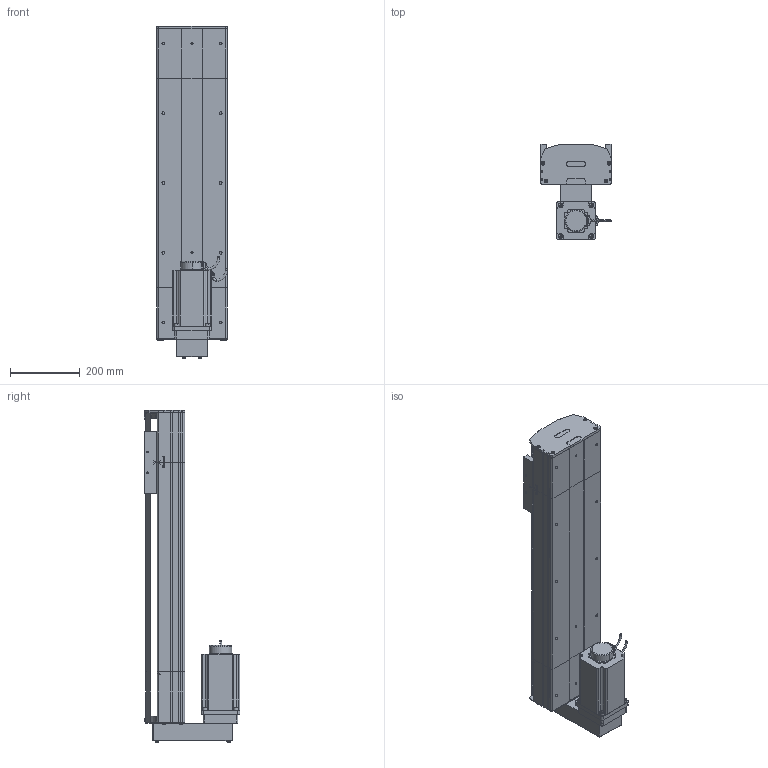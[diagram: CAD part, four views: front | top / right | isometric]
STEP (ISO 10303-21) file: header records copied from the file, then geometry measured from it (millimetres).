
FILE_DESCRIPTION (( 'STEP AP214' ), '1' );
FILE_NAME ('D20 TSH BM S600.STEP', '2010-06-30T08:33:03', ( 'Conseil Régional Haute-Normandie' ), ( 'Conseil Régional Haute-Normandie' ), 'SwSTEP 2.0', 'SolidWorks 2010', '' );
FILE_SCHEMA (( 'AUTOMOTIVE_DESIGN' ));
Length unit declared in the file: millimetre
Products named in the file (35): renvoi  BM_Default; vis M5 L70_Default; tail D20 S_Default; corpl tail D20_Default; tete d''axe haut D20; vis M5 L8 90°_Default; tete d''axe bas D20; Arbre+rail tail D20; couvercle tail D20_Default; plaque de  bout tail D20_Default; 2 vis M5 L12_Default; Chariot D20; chariot D20S_Default; guide D20; vis M5 L12_Default; vis M5 L25_Default; corpl head MD D20_Default; head BM D20_Default; couvercle D20 S600_Default; rail + arbre  D20 S600; corp D20 S600_Default; course D20 L600_Default; vis M8 L12_Default; D20 TSH BM S600; Arbre+rail head D20; clavette; Conecteur_Default; Conecteur2_Default; couvercle head l D20_Default; Plaque racord D20_Default; corps 110BLDC170A-630x; avant 110BLDC170A-630x; plaque de  bout head BR D20_Default; codeur 110BLDC170A-630x; Moteur motionking 110BLDC170A-640x
Assembly tree (59 placements, depth 4):
  D20 TSH BM S600
    head BM D20_Default
      vis M5 L12_Default  x2
      renvoi  BM_Default
      vis M8 L12_Default  x4
      Moteur motionking 110BLDC170A-640x
        clavette
        Conecteur2_Default
        codeur 110BLDC170A-630x
        Conecteur_Default
        corps 110BLDC170A-630x
        avant 110BLDC170A-630x
      vis M5 L70_Default  x4
      2 vis M5 L12_Default  x6
      Arbre+rail head D20
      corpl head MD D20_Default
      couvercle head l D20_Default
      Plaque racord D20_Default
      vis M5 L25_Default  x2
      plaque de  bout head BR D20_Default
    tail D20 S_Default
      couvercle tail D20_Default
      tete d''axe bas D20
      tete d''axe haut D20
      vis M5 L25_Default  x2
      2 vis M5 L12_Default  x4
      vis M5 L8 90°_Default  x2
      corpl tail D20_Default
      plaque de  bout tail D20_Default
      Arbre+rail tail D20
    course D20 L600_Default
      rail + arbre  D20 S600
      corp D20 S600_Default
      couvercle D20 S600_Default
    chariot D20S_Default
      vis M5 L12_Default  x4
      guide D20  x2
      Chariot D20
Bounding box: 206 x 273.7 x 951.7 mm (x, y, z)
Volume: 10369773.1 mm3; surface area: 2088894.9 mm2
Topology: 84 solids, 84 shells, 2304 faces, 5765 edges, 3721 vertices
Faces by surface type: plane 1380, cylinder 636, bspline 136, torus 77, cone 71, sphere 4
Entity records: 74382 total; most frequent: CARTESIAN_POINT 24220, ORIENTED_EDGE 8826, DIRECTION 8338, EDGE_CURVE 4413, LINE 2928, VECTOR 2928, VERTEX_POINT 2903, AXIS2_PLACEMENT_3D 2705
